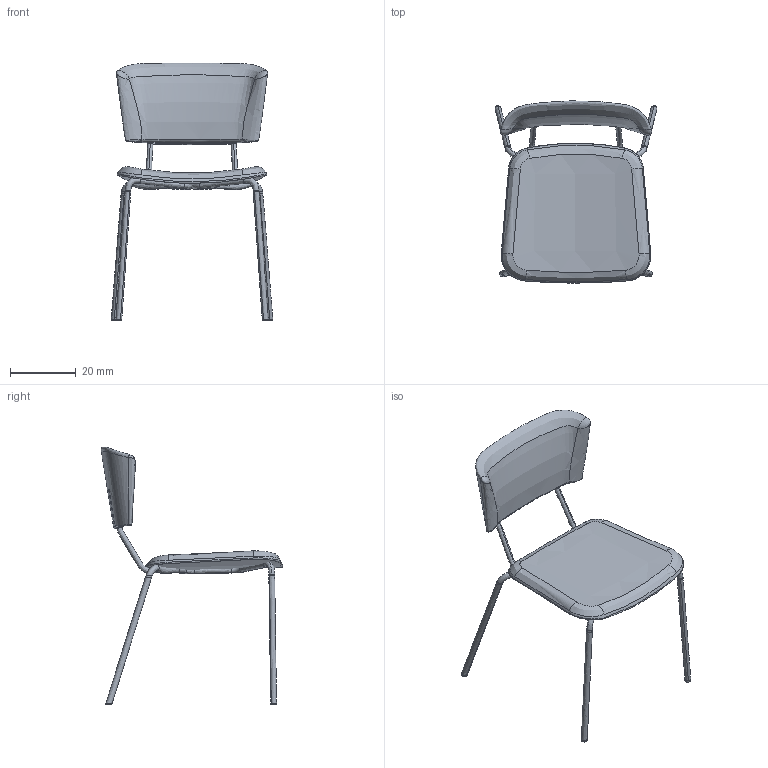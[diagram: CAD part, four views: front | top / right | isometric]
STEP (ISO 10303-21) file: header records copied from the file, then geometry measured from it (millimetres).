
FILE_DESCRIPTION(/* description */ (''),/* implementation_level */ '2;1');
FILE_NAME(/* name */ 'FLEXI1~2',/* time_stamp */ '2019-08-29T14:28:33+02:00',/* author */ (''),/* organization */ (''),/* preprocessor_version */ 'ST-DEVELOPER v16.5',/* originating_system */ '',/* authorisation */ '');
FILE_SCHEMA (('AUTOMOTIVE_DESIGN'));
Length unit declared in the file: millimetre
Products named in the file (1): Document
Bounding box: 49.39 x 55.5 x 78.59 mm (x, y, z)
Surface area: 8263 mm2 (no closed solid volume)
Topology: 0 solids, 10 shells, 110 faces, 279 edges, 167 vertices
Faces by surface type: bspline 106, plane 4
Entity records: 34772 total; most frequent: CARTESIAN_POINT 33223, ORIENTED_EDGE 505, EDGE_CURVE 274, VERTEX_POINT 167, B_SPLINE_CURVE_WITH_KNOTS 163, EDGE_LOOP 112, ADVANCED_FACE 110, FACE_OUTER_BOUND 110
